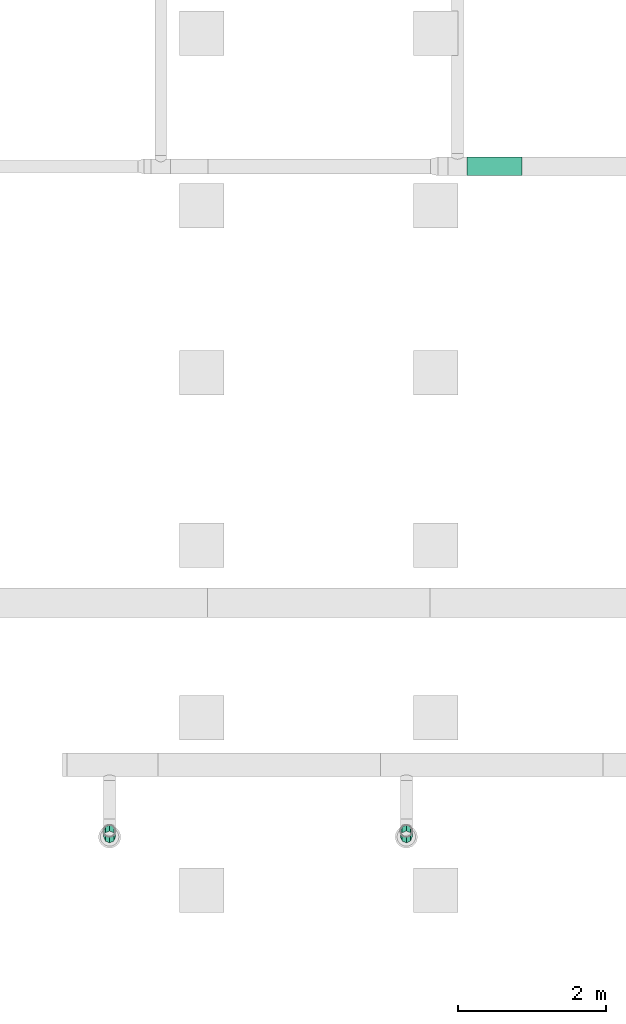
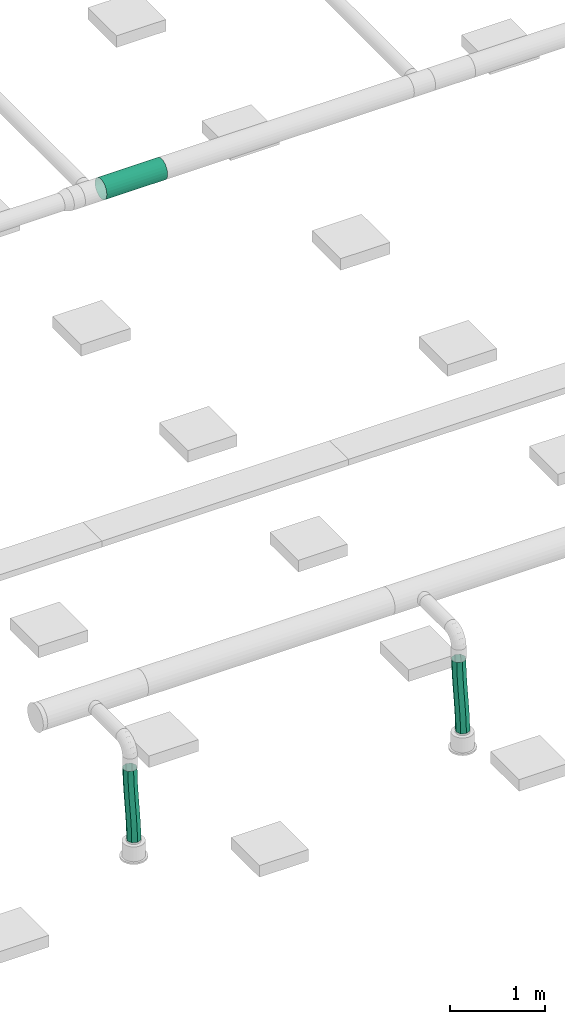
# One storey, part 234 of 374: 3 flow segments.
"""IFC2X3 building model written with IfcOpenShell, lengths in metres."""

from ifc_helpers import new_model, si_unit, direction, origin, place, context, subcontext, project, spatial, open_shell, surface_model, source, transform, mapped, element, save


model = new_model("IFC2X3")

# Units and contexts
model_context = context("Model", 3, precision=1e-05, world=origin(), true_north=direction((-0.4480736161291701, 0.8939966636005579)))
body_context = subcontext(model_context, "Body", "Model", "MODEL_VIEW")
ifc_project = project(units=[si_unit("LENGTHUNIT", "METRE"), si_unit("AREAUNIT", "SQUARE_METRE"), si_unit("VOLUMEUNIT", "CUBIC_METRE"), si_unit("PLANEANGLEUNIT", "RADIAN"), si_unit("THERMODYNAMICTEMPERATUREUNIT", "KELVIN"), si_unit("MASSUNIT", "GRAM", prefix="KILO"), si_unit("TIMEUNIT", "SECOND")], contexts=[model_context])

# Site, building, storey
site_placement = place(None, origin())
site = spatial("IfcSite", under=ifc_project, at=site_placement, Name="Site 1", CompositionType="ELEMENT")
building_placement = place(site_placement, origin())
building = spatial("IfcBuilding", under=site, at=building_placement, Name="Undefined", CompositionType="ELEMENT")
storey_placement = place(building_placement, origin())
storey = spatial("IfcBuildingStorey", under=building, at=storey_placement, Name="Rez de chauss\x8ee", CompositionType="ELEMENT", Elevation=0.0)

# Flow segments
shared_shape_1 = source(origin(), body_context, "Body", "SurfaceModel", [
    surface_model("IfcFaceBasedSurfaceModel", [(0.0, 0.03263154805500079, 0.0), (0.0, 0.0, 0.0), (0.7400000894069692, 4.4408921e-16, 0.0), (0.7400000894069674, 0.032631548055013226, 0.0), (0.0, -0.031519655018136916, -0.008445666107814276), (0.7400000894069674, -0.03151965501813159, -0.008445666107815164), (0.0, -0.05977940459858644, -0.024761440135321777), (0.7400000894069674, -0.05977940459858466, -0.02476144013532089), (0.0, -0.08285339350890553, -0.047835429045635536), (0.7400000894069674, -0.08285339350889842, -0.047835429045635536), (0.0, -0.09916916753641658, -0.07609517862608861), (0.7400000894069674, -0.09916916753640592, -0.07609517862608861), (0.0, -0.1076148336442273, -0.10761483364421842), (0.7400000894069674, -0.10761483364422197, -0.10761483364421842), (0.0, -0.1076148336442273, -0.14024638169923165), (0.7400000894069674, -0.10761483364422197, -0.14024638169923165), (0.0, -0.09916916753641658, -0.17176603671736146), (0.7400000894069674, -0.09916916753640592, -0.17176603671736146), (0.0, -0.08285339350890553, -0.2000257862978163), (0.7400000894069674, -0.08285339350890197, -0.20002578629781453), (0.0, -0.059779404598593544, -0.22309977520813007), (0.7400000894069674, -0.059779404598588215, -0.22309977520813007), (0.0, -0.03151965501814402, -0.23941554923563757), (0.7400000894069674, -0.03151965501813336, -0.23941554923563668), (0.0, -1.4210854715e-14, -0.24786121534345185), (0.7400000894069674, -3.552713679e-15, -0.24786121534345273), (0.0, 0.03263154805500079, -0.24786121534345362), (0.7400000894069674, 0.0326315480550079, -0.24786121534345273), (0.0, 0.0641512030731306, -0.23941554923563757), (0.7400000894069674, 0.06415120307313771, -0.23941554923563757), (0.0, 0.09241095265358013, -0.22309977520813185), (0.7400000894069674, 0.09241095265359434, -0.22309977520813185), (0.0, 0.11548494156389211, -0.2000257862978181), (0.7400000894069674, 0.1154849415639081, -0.2000257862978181), (0.0, 0.13180071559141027, -0.171766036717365), (0.7400000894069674, 0.1318007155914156, -0.17176603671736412), (0.0, 0.140246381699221, -0.1402463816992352), (0.7400000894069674, 0.14024638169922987, -0.1402463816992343), (0.0, 0.140246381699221, -0.10761483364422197), (0.7400000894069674, 0.14024638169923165, -0.10761483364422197), (0.0, 0.13180071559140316, -0.07609517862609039), (0.7400000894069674, 0.1318007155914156, -0.07609517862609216), (0.0, 0.11548494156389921, -0.04783542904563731), (0.7400000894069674, 0.11548494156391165, -0.04783542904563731), (0.0, 0.09241095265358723, -0.024761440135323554), (0.7400000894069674, 0.09241095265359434, -0.024761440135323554), (0.0, 0.06415120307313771, -0.008445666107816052), (0.7400000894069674, 0.06415120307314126, -0.008445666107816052)], [open_shell([[[0, 1, 2, 3]], [[1, 4, 5, 2]], [[4, 6, 7, 5]], [[6, 8, 9, 7]], [[8, 10, 11, 9]], [[10, 12, 13, 11]], [[12, 14, 15, 13]], [[14, 16, 17, 15]], [[16, 18, 19, 17]], [[18, 20, 21, 19]], [[20, 22, 23, 21]], [[22, 24, 25, 23]], [[24, 26, 27, 25]], [[26, 28, 29, 27]], [[28, 30, 31, 29]], [[30, 32, 33, 31]], [[32, 34, 35, 33]], [[34, 36, 37, 35]], [[36, 38, 39, 37]], [[38, 40, 41, 39]], [[40, 42, 43, 41]], [[42, 44, 45, 43]], [[44, 46, 47, 45]], [[46, 0, 3, 47]]])]),
])
flow_segment_1_placement = place(storey_placement, origin())
element("IfcFlowSegment", 1, at=flow_segment_1_placement, inside=storey, Name="Tube", ObjectType="Tube", context=body_context, shape_type="MappedRepresentation", body=[
    mapped(shared_shape_1, transform((11.850053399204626, 10.951546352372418, 3.920740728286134), x_axis=(-1.0, 0.0, 0.0), y_axis=(7.266545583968e-12, -0.9914448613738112, 0.13052619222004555), z_axis=(0.0, 0.13052619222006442, 0.9914448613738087))),
])
shared_shape_2 = source(origin(), body_context, "Body", "SurfaceModel", [
    surface_model("IfcFaceBasedSurfaceModel", [(0.09591138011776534, 8.8817842e-16, 0.0), (0.05777895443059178, 0.04790565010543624, 1.776356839e-15), (0.0, 0.0, 0.0), (0.03990853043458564, -0.04643643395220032, -1.0801806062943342e-06), (-0.05576708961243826, -0.04966194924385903, -0.0010921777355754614), (-0.014403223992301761, -0.0948068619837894, -0.0010661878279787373), (-0.10982704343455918, -0.10061374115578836, -0.0030471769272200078), (-0.06736210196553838, -0.14472448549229, -0.002982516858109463), (-0.16253987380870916, -0.1524448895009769, -0.005638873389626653), (-0.11930632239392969, -0.19580250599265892, -0.00553726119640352), (-0.21426131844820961, -0.20475372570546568, -0.0086450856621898), (-0.17057410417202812, -0.24765412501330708, -0.008517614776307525), (-0.2653408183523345, -0.2571453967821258, -0.01184747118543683), (-0.22150366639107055, -0.29989254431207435, -0.011710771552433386), (-0.31612044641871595, -0.30923057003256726, -0.015031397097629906), (-0.27243323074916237, -0.35213096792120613, -0.014903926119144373), (-0.36693456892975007, -0.3606249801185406, -0.017985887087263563), (-0.32370101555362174, -0.40398259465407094, -0.01788427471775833), (-0.4181101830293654, -0.41094988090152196, -0.020503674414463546), (-0.3756452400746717, -0.45506062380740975, -0.020439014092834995), (-0.4699679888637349, -0.4598333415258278, -0.022381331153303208), (-0.42860412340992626, -0.5049782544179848, -0.022355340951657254), (-0.5228244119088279, -0.5069122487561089, -0.023419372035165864), (-0.48291588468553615, -0.5533486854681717, -0.02342045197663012), (-0.5770511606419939, -0.5518794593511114, -0.023421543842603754), (-0.5389187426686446, -0.5997851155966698, -0.023421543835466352), (0.03053522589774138, 0.081557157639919, -0.04329420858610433), (-0.02797941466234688, 0.033042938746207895, -0.043293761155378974), (-0.08434932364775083, -0.017153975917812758, -0.04439715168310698), (-0.1388653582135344, -0.0685341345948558, -0.0463681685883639), (-0.19189655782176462, -0.12067723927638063, -0.0489751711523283), (-0.2438059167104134, -0.17317546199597, -0.05199209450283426), (-0.29494752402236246, -0.22563061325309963, -0.055198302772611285), (-0.34566504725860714, -0.2776523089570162, -0.0583784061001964), (-0.3962912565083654, -0.32885733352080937, -0.06132218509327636), (-0.4471485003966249, -0.37887027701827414, -0.0638246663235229), (-0.49855022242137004, -0.42732536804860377, -0.06568630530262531), (-0.5508038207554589, -0.4738693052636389, -0.06671313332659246), (-0.6042948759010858, -0.5182279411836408, -0.0667157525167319), (0.030139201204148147, 0.08124192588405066, -0.1045214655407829), (-0.0276397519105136, 0.033336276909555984, -0.10452146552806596), (-0.08340684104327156, -0.01632567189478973, -0.10561364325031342), (-0.13746679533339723, -0.06727746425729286, -0.10756864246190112), (-0.19017962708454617, -0.1191086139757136, -0.1101603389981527), (-0.2419010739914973, -0.17141745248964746, -0.11316655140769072), (-0.2929805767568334, -0.223809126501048, -0.11636893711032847), (-0.3437602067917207, -0.2758943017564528, -0.11955286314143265), (-0.39457432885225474, -0.32728871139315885, -0.12250735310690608), (-0.44574993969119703, -0.37761360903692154, -0.1250251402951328), (-0.49760773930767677, -0.42649706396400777, -0.12690279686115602), (-0.5504641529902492, -0.47357596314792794, -0.12794083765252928), (-0.604690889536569, -0.5185431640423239, -0.12794300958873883), (0.05682286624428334, 0.04714461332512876, -0.147815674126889), (0.0008200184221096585, 0.0007081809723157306, -0.1478167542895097), (-0.05349173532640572, -0.04766224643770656, -0.14888186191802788), (-0.10645061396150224, -0.097579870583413, -0.15079819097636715), (-0.15839483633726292, -0.148657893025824, -0.15335293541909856), (-0.20966262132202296, -0.20050951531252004, -0.1563332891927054), (-0.26059218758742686, -0.2527479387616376, -0.15952644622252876), (-0.31152175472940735, -0.3049863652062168, -0.16271960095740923), (-0.362789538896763, -0.3568379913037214, -0.16569994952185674), (-0.41473375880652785, -0.4079160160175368, -0.1682546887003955), (-0.4676926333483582, -0.4578336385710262, -0.1701710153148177), (-0.5220043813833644, -0.5062040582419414, -0.17123612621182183), (-0.5780072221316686, -0.5526404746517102, -0.17123721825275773), (0.0949552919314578, -0.0007610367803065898, -0.147815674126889), (0.0407285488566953, -0.04572825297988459, -0.14781783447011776), (-0.012127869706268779, -0.09280715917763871, -0.1488558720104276), (-0.06398567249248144, -0.14169061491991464, -0.1507335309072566), (-0.11516128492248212, -0.1920155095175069, -0.15325132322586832), (-0.16597540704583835, -0.24340991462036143, -0.15620581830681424), (-0.21675503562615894, -0.2954950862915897, -0.15938974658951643), (-0.267834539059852, -0.34788676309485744, -0.16259212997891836), (-0.3195559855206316, -0.4001956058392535, -0.16559833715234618), (-0.37226881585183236, -0.45202675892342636, -0.1681900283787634), (-0.426328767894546, -0.5029785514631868, -0.17014502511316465), (-0.48209585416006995, -0.5526404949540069, -0.17123720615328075), (-0.5398748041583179, -0.6005461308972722, -0.17123721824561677), (0.1221990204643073, -0.03441254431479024, -0.1045214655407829), (0.06870796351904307, -0.0787711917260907, -0.10452407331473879), (0.016454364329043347, -0.12531513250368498, -0.10555089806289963), (-0.03494735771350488, -0.17377022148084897, -0.10741253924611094), (-0.08580460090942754, -0.22378315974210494, -0.10991502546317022), (-0.13643080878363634, -0.274988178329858, -0.1128588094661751), (-0.1871483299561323, -0.327009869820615, -0.11603891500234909), (-0.23828993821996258, -0.3794650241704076, -0.11924512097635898), (-0.29019929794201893, -0.43196325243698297, -0.12226203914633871), (-0.3432304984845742, -0.4841063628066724, -0.12486903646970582), (-0.39774653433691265, -0.5354865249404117, -0.12684005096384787), (-0.4541164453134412, -0.5856834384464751, -0.12794344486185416), (-0.5126310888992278, -0.6341976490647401, -0.1279430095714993), (0.12259504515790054, -0.0340973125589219, -0.04329420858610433), (0.06836830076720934, -0.07906452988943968, -0.0432963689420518), (0.015511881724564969, -0.12614343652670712, -0.044334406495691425), (-0.036345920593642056, -0.17502689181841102, -0.04621206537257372), (-0.08752153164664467, -0.2253517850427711, -0.048729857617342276), (-0.13833565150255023, -0.27674618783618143, -0.05168435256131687), (-0.18911527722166, -0.3288313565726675, -0.05486828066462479), (-0.24019477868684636, -0.3812230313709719, -0.058070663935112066), (-0.291916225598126, -0.43353187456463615, -0.06107687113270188), (-0.344629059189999, -0.4853630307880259, -0.06366856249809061), (-0.3986890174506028, -0.5363148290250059, -0.06562355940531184), (-0.45445611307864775, -0.5859767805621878, -0.06671574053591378), (-0.5122350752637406, -0.6338824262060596, -0.06671575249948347)], [open_shell([[[0, 1, 2]], [[2, 3, 0]], [[3, 2, 4]], [[4, 5, 3]], [[5, 4, 6]], [[6, 7, 5]], [[7, 6, 8]], [[8, 9, 7]], [[9, 8, 10]], [[10, 11, 9]], [[11, 10, 12]], [[12, 13, 11]], [[13, 12, 14]], [[14, 15, 13]], [[15, 14, 16]], [[16, 17, 15]], [[17, 16, 18]], [[18, 19, 17]], [[19, 18, 20]], [[20, 21, 19]], [[21, 20, 22]], [[22, 23, 21]], [[23, 22, 24]], [[24, 25, 23]], [[1, 26, 27]], [[27, 2, 1]], [[2, 27, 28]], [[28, 4, 2]], [[4, 28, 29]], [[29, 6, 4]], [[6, 29, 30]], [[30, 8, 6]], [[8, 30, 31]], [[31, 10, 8]], [[10, 31, 32]], [[32, 12, 10]], [[12, 32, 33]], [[33, 14, 12]], [[14, 33, 34]], [[34, 16, 14]], [[16, 34, 35]], [[35, 18, 16]], [[18, 35, 36]], [[36, 20, 18]], [[20, 36, 37]], [[37, 22, 20]], [[22, 37, 38]], [[38, 24, 22]], [[26, 39, 40]], [[40, 27, 26]], [[27, 40, 41]], [[41, 28, 27]], [[28, 41, 42]], [[42, 29, 28]], [[29, 42, 43]], [[43, 30, 29]], [[30, 43, 44]], [[44, 31, 30]], [[31, 44, 45]], [[45, 32, 31]], [[32, 45, 46]], [[46, 33, 32]], [[33, 46, 47]], [[47, 34, 33]], [[34, 47, 48]], [[48, 35, 34]], [[35, 48, 49]], [[49, 36, 35]], [[36, 49, 50]], [[50, 37, 36]], [[37, 50, 51]], [[51, 38, 37]], [[39, 52, 53]], [[53, 40, 39]], [[40, 53, 54]], [[54, 41, 40]], [[41, 54, 55]], [[55, 42, 41]], [[42, 55, 56]], [[56, 43, 42]], [[43, 56, 57]], [[57, 44, 43]], [[44, 57, 58]], [[58, 45, 44]], [[45, 58, 59]], [[59, 46, 45]], [[46, 59, 60]], [[60, 47, 46]], [[47, 60, 61]], [[61, 48, 47]], [[48, 61, 62]], [[62, 49, 48]], [[49, 62, 63]], [[63, 50, 49]], [[50, 63, 64]], [[64, 51, 50]], [[52, 65, 66]], [[66, 53, 52]], [[53, 66, 67]], [[67, 54, 53]], [[54, 67, 68]], [[68, 55, 54]], [[55, 68, 69]], [[69, 56, 55]], [[56, 69, 70]], [[70, 57, 56]], [[57, 70, 71]], [[71, 58, 57]], [[58, 71, 72]], [[72, 59, 58]], [[59, 72, 73]], [[73, 60, 59]], [[60, 73, 74]], [[74, 61, 60]], [[61, 74, 75]], [[75, 62, 61]], [[62, 75, 76]], [[76, 63, 62]], [[63, 76, 77]], [[77, 64, 63]], [[65, 78, 79]], [[79, 66, 65]], [[66, 79, 80]], [[80, 67, 66]], [[67, 80, 81]], [[81, 68, 67]], [[68, 81, 82]], [[82, 69, 68]], [[69, 82, 83]], [[83, 70, 69]], [[70, 83, 84]], [[84, 71, 70]], [[71, 84, 85]], [[85, 72, 71]], [[72, 85, 86]], [[86, 73, 72]], [[73, 86, 87]], [[87, 74, 73]], [[74, 87, 88]], [[88, 75, 74]], [[75, 88, 89]], [[89, 76, 75]], [[76, 89, 90]], [[90, 77, 76]], [[78, 91, 92]], [[92, 79, 78]], [[79, 92, 93]], [[93, 80, 79]], [[80, 93, 94]], [[94, 81, 80]], [[81, 94, 95]], [[95, 82, 81]], [[82, 95, 96]], [[96, 83, 82]], [[83, 96, 97]], [[97, 84, 83]], [[84, 97, 98]], [[98, 85, 84]], [[85, 98, 99]], [[99, 86, 85]], [[86, 99, 100]], [[100, 87, 86]], [[87, 100, 101]], [[101, 88, 87]], [[88, 101, 102]], [[102, 89, 88]], [[89, 102, 103]], [[103, 90, 89]], [[91, 0, 3]], [[3, 92, 91]], [[92, 3, 5]], [[5, 93, 92]], [[93, 5, 7]], [[7, 94, 93]], [[94, 7, 9]], [[9, 95, 94]], [[95, 9, 11]], [[11, 96, 95]], [[96, 11, 13]], [[13, 97, 96]], [[97, 13, 15]], [[15, 98, 97]], [[98, 15, 17]], [[17, 99, 98]], [[99, 17, 19]], [[19, 100, 99]], [[100, 19, 21]], [[21, 101, 100]], [[101, 21, 23]], [[23, 102, 101]], [[102, 23, 25]], [[25, 103, 102]]])]),
])
flow_segment_2_placement = place(storey_placement, origin())
element("IfcFlowSegment", 2, at=flow_segment_2_placement, inside=storey, Name="Tube flexible", ObjectType="Tube flexible", context=body_context, shape_type="MappedRepresentation", body=[
    mapped(shared_shape_2, transform((10.233432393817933, 2.0149472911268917, 3.4049618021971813), x_axis=(-0.24430321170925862, -0.5728987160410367, 0.7823701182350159), y_axis=(0.2946538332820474, 0.7248106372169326, 0.6227589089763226), z_axis=(-0.9238479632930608, 0.38267035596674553, -0.008266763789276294))),
])
shared_shape_3 = source(origin(), body_context, "Body", "SurfaceModel", [
    surface_model("IfcFaceBasedSurfaceModel", [(0.09591137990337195, 0.0, 0.0), (0.0577789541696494, 0.04790565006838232, 0.0), (0.0, 0.0, 0.0), (0.039908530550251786, -0.0464364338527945, -1.0801747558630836e-06), (-0.05576708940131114, -0.04966194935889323, -0.001092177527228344), (-0.0144032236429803, -0.09480686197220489, -0.00106618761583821), (-0.10982704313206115, -0.10061374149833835, -0.003047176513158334), (-0.06736210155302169, -0.14472448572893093, -0.002982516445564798), (-0.16253987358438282, -0.15244489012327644, -0.005638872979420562), (-0.11930632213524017, -0.19580250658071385, -0.005537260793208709), (-0.21426131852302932, -0.2047537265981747, -0.008645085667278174), (-0.17057410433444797, -0.24765412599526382, -0.008517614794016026), (-0.2653408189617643, -0.25714539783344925, -0.011847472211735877), (-0.22150366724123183, -0.29989254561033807, -0.011710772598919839), (-0.3161204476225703, -0.3092305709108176, -0.015031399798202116), (-0.2724332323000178, -0.35213096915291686, -0.014903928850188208), (-0.3669345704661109, -0.36062498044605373, -0.017985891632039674), (-0.32370101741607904, -0.4039825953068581, -0.01788427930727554), (-0.4181101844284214, -0.41094988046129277, -0.02050368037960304), (-0.3756452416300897, -0.4550606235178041, -0.020439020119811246), (-0.46996798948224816, -0.45983334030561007, -0.022381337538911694), (-0.4286041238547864, -0.504978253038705, -0.022355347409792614), (-0.522824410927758, -0.5069122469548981, -0.023419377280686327), (-0.4829158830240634, -0.553348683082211, -0.023420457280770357), (-0.5770511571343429, -0.5518794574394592, -0.023421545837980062), (-0.5389187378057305, -0.5997851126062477, -0.023421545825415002), (0.030535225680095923, 0.08155715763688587, -0.043294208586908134), (-0.027979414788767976, 0.03304293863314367, -0.043293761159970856), (-0.08434932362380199, -0.017153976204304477, -0.04439715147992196), (-0.1388653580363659, -0.06853413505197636, -0.04636816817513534), (-0.19189655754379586, -0.12067723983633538, -0.048975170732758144), (-0.24380591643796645, -0.17317546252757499, -0.05199209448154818), (-0.29494752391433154, -0.22563061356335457, -0.055198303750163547), (-0.3456650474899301, -0.2776523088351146, -0.05837840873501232), (-0.3962912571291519, -0.3288573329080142, -0.06132218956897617), (-0.44714850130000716, -0.37887027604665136, -0.06382467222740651), (-0.4985502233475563, -0.4273253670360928, -0.06568631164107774), (-0.5508038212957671, -0.47386930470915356, -0.06671313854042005), (-0.6042948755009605, -0.5182279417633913, -0.06671575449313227), (0.03013920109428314, 0.08124192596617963, -0.10452146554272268), (-0.027639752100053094, 0.033336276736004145, -0.10452146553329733), (-0.08340684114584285, -0.016325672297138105, -0.1056136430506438), (-0.13746679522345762, -0.06727746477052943, -0.10756864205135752), (-0.19017962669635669, -0.11910861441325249, -0.11016033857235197), (-0.2419010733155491, -0.17141745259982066, -0.11316655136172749), (-0.29298057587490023, -0.22380912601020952, -0.11636893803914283), (-0.34376020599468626, -0.27589430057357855, -0.11955286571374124), (-0.3945743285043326, -0.327288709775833, -0.12250735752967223), (-0.44574994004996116, -0.377613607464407, -0.12502514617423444), (-0.49760774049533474, -0.4264970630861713, -0.1269028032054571), (-0.5504641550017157, -0.47357596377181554, -0.12794084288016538), (-0.604690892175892, -0.5185431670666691, -0.12794301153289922), (0.05682286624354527, 0.04714461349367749, -0.1478156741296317), (0.0008200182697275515, 0.0007081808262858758, -0.1478167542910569), (-0.05349173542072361, -0.04766224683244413, -0.14888186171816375), (-0.10645061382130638, -0.0975798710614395, -0.15079819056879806), (-0.1583948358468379, -0.1486578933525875, -0.15335293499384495), (-0.20966262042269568, -0.2005095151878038, -0.1563332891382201), (-0.2605921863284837, -0.25274793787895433, -0.1595264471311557), (-0.31152175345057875, -0.30498636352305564, -0.16271960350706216), (-0.3627895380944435, -0.3568379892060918, -0.16569995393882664), (-0.4147337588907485, -0.40791601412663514, -0.16825469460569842), (-0.4676926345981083, -0.457833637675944, -0.17017102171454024), (-0.5220043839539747, -0.5062040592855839, -0.17123613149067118), (-0.5780072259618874, -0.5526404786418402, -0.1712372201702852), (0.09495529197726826, -0.0007610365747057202, -0.1478156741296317), (0.040728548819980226, -0.04572825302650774, -0.14781783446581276), (-0.012127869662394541, -0.0928071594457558, -0.1488558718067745), (-0.06398567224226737, -0.1416906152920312, -0.15073353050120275), (-0.11516128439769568, -0.19201550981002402, -0.1532513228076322), (-0.16597540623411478, -0.24340991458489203, -0.15620581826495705), (-0.21675503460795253, -0.29549508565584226, -0.15938974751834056), (-0.2678345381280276, -0.3478867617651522, -0.16259213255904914), (-0.31955598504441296, -0.40019560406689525, -0.16559834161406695), (-0.3722688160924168, -0.4520267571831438, -0.1681900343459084), (-0.426328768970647, -0.502978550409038, -0.17014503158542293), (-0.4820958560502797, -0.5526404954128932, -0.17123721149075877), (-0.5398748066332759, -0.600546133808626, -0.17123722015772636), (0.1221990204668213, -0.03441254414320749, -0.10452146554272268), (0.06870796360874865, -0.0787711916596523, -0.1045240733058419), (0.01645436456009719, -0.12531513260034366, -0.10555089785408), (-0.03494735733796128, -0.17377022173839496, -0.10741253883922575), (-0.0858046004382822, -0.22378316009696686, -0.10991502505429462), (-0.1364308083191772, -0.27498817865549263, -0.11285880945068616), (-0.18714832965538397, -0.3270098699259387, -0.11603891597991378), (-0.23828993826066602, -0.379465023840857, -0.11924512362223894), (-0.29019929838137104, -0.43196325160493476, -0.12226204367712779), (-0.3432304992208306, -0.48410636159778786, -0.12486904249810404), (-0.397746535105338, -0.5354865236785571, -0.12684005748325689), (-0.45411644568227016, -0.5856834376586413, -0.12794345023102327), (-0.5126310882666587, -0.6341976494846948, -0.12794301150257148), (0.12259504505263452, -0.03409731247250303, -0.04329420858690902), (0.06836830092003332, -0.07906452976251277, -0.04329636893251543), (0.015511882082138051, -0.12614343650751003, -0.04433440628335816), (-0.03634592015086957, -0.175026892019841, -0.046212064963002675), (-0.08752153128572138, -0.22535178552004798, -0.0487298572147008), (-0.13833565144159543, -0.27674618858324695, -0.05168435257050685), (-0.18911527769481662, -0.3288313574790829, -0.054868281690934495), (-0.24019477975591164, -0.38122303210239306, -0.05807066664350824), (-0.29191622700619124, -0.43353187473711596, -0.06107687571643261), (-0.3446290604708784, -0.48536303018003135, -0.06366856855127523), (-0.39868901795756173, -0.5363148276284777, -0.06562356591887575), (-0.45445611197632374, -0.5859767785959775, -0.06671574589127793), (-0.5122350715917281, -0.633882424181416, -0.0667157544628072)], [open_shell([[[0, 1, 2]], [[2, 3, 0]], [[3, 2, 4]], [[4, 5, 3]], [[5, 4, 6]], [[6, 7, 5]], [[7, 6, 8]], [[8, 9, 7]], [[9, 8, 10]], [[10, 11, 9]], [[11, 10, 12]], [[12, 13, 11]], [[13, 12, 14]], [[14, 15, 13]], [[15, 14, 16]], [[16, 17, 15]], [[17, 16, 18]], [[18, 19, 17]], [[19, 18, 20]], [[20, 21, 19]], [[21, 20, 22]], [[22, 23, 21]], [[23, 22, 24]], [[24, 25, 23]], [[1, 26, 27]], [[27, 2, 1]], [[2, 27, 28]], [[28, 4, 2]], [[4, 28, 29]], [[29, 6, 4]], [[6, 29, 30]], [[30, 8, 6]], [[8, 30, 31]], [[31, 10, 8]], [[10, 31, 32]], [[32, 12, 10]], [[12, 32, 33]], [[33, 14, 12]], [[14, 33, 34]], [[34, 16, 14]], [[16, 34, 35]], [[35, 18, 16]], [[18, 35, 36]], [[36, 20, 18]], [[20, 36, 37]], [[37, 22, 20]], [[22, 37, 38]], [[38, 24, 22]], [[26, 39, 40]], [[40, 27, 26]], [[27, 40, 41]], [[41, 28, 27]], [[28, 41, 42]], [[42, 29, 28]], [[29, 42, 43]], [[43, 30, 29]], [[30, 43, 44]], [[44, 31, 30]], [[31, 44, 45]], [[45, 32, 31]], [[32, 45, 46]], [[46, 33, 32]], [[33, 46, 47]], [[47, 34, 33]], [[34, 47, 48]], [[48, 35, 34]], [[35, 48, 49]], [[49, 36, 35]], [[36, 49, 50]], [[50, 37, 36]], [[37, 50, 51]], [[51, 38, 37]], [[39, 52, 53]], [[53, 40, 39]], [[40, 53, 54]], [[54, 41, 40]], [[41, 54, 55]], [[55, 42, 41]], [[42, 55, 56]], [[56, 43, 42]], [[43, 56, 57]], [[57, 44, 43]], [[44, 57, 58]], [[58, 45, 44]], [[45, 58, 59]], [[59, 46, 45]], [[46, 59, 60]], [[60, 47, 46]], [[47, 60, 61]], [[61, 48, 47]], [[48, 61, 62]], [[62, 49, 48]], [[49, 62, 63]], [[63, 50, 49]], [[50, 63, 64]], [[64, 51, 50]], [[52, 65, 66]], [[66, 53, 52]], [[53, 66, 67]], [[67, 54, 53]], [[54, 67, 68]], [[68, 55, 54]], [[55, 68, 69]], [[69, 56, 55]], [[56, 69, 70]], [[70, 57, 56]], [[57, 70, 71]], [[71, 58, 57]], [[58, 71, 72]], [[72, 59, 58]], [[59, 72, 73]], [[73, 60, 59]], [[60, 73, 74]], [[74, 61, 60]], [[61, 74, 75]], [[75, 62, 61]], [[62, 75, 76]], [[76, 63, 62]], [[63, 76, 77]], [[77, 64, 63]], [[65, 78, 79]], [[79, 66, 65]], [[66, 79, 80]], [[80, 67, 66]], [[67, 80, 81]], [[81, 68, 67]], [[68, 81, 82]], [[82, 69, 68]], [[69, 82, 83]], [[83, 70, 69]], [[70, 83, 84]], [[84, 71, 70]], [[71, 84, 85]], [[85, 72, 71]], [[72, 85, 86]], [[86, 73, 72]], [[73, 86, 87]], [[87, 74, 73]], [[74, 87, 88]], [[88, 75, 74]], [[75, 88, 89]], [[89, 76, 75]], [[76, 89, 90]], [[90, 77, 76]], [[78, 91, 92]], [[92, 79, 78]], [[79, 92, 93]], [[93, 80, 79]], [[80, 93, 94]], [[94, 81, 80]], [[81, 94, 95]], [[95, 82, 81]], [[82, 95, 96]], [[96, 83, 82]], [[83, 96, 97]], [[97, 84, 83]], [[84, 97, 98]], [[98, 85, 84]], [[85, 98, 99]], [[99, 86, 85]], [[86, 99, 100]], [[100, 87, 86]], [[87, 100, 101]], [[101, 88, 87]], [[88, 101, 102]], [[102, 89, 88]], [[89, 102, 103]], [[103, 90, 89]], [[91, 0, 3]], [[3, 92, 91]], [[92, 3, 5]], [[5, 93, 92]], [[93, 5, 7]], [[7, 94, 93]], [[94, 7, 9]], [[9, 95, 94]], [[95, 9, 11]], [[11, 96, 95]], [[96, 11, 13]], [[13, 97, 96]], [[97, 13, 15]], [[15, 98, 97]], [[98, 15, 17]], [[17, 99, 98]], [[99, 17, 19]], [[19, 100, 99]], [[100, 19, 21]], [[21, 101, 100]], [[101, 21, 23]], [[23, 102, 101]], [[102, 23, 25]], [[25, 103, 102]]])]),
])
flow_segment_3_placement = place(storey_placement, origin())
element("IfcFlowSegment", 3, at=flow_segment_3_placement, inside=storey, Name="Tube flexible", ObjectType="Tube flexible", context=body_context, shape_type="MappedRepresentation", body=[
    mapped(shared_shape_3, transform((6.233432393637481, 2.0149472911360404, 3.4049618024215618), x_axis=(-0.2443032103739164, -0.5728987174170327, 0.782370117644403), y_axis=(0.2946538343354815, 0.7248106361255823, 0.6227589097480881), z_axis=(-0.9238479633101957, 0.3826703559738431, -0.00826676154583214))),
])

save(model, "model.ifc")
